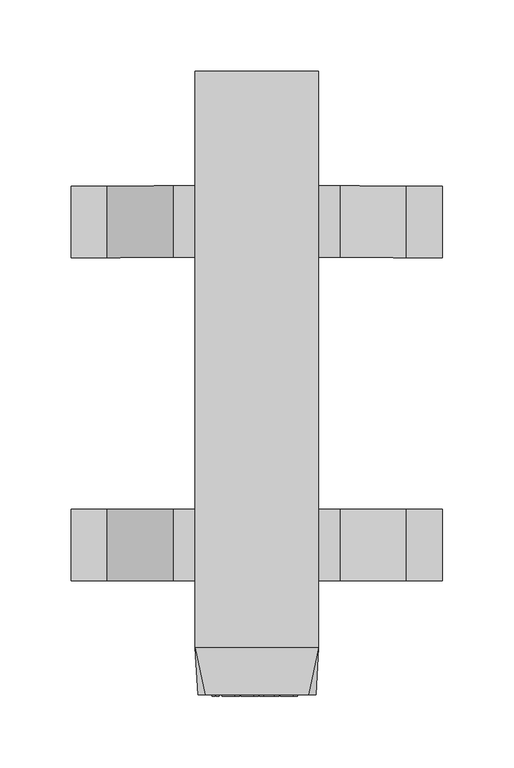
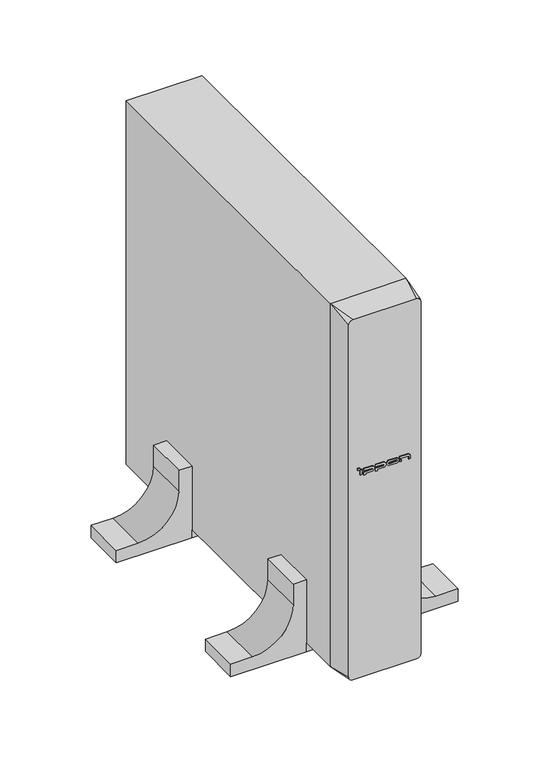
"""IFC4 building model written with IfcOpenShell, lengths in millimetres: proxy geometry, IPPON_ИБП_Smart Winner II Euro_1500ВА : Smart Winner II Euro 1500 ВА."""

from ifc_helpers import new_model, si_unit, point, frame, frame_2d, origin, origin_with_axes, place, context, project, spatial, polyline, circle_curve, trimmed, segment, composite_curve, outline, extrude, source, transform, mapped, element, save
from ifc_brep_helpers import plane_surface, spline_surface, advanced_brep


def electrical_equipment_e0649b80(model_context):
    return source(origin(), model_context, "Body", "SolidModel", [
        extrude(outline(polyline([(-29.1718133, -1.0), (-31.1718133, -1.0), (-31.1718133, 0.0), (-29.1718133, 0.0), (-29.1718133, -1.0)])), frame((0.0, 0.0, 262.7195835), z_axis=(0.0, 0.0, 1.0), x_axis=(1.0, 0.0, 0.0)), (0.0, 0.0, 1.0), 2.3),
        extrude(outline(polyline([(18.6035474, -1.0), (16.6035474, -1.0), (16.6035474, 0.0), (18.6035474, 0.0), (18.6035474, -1.0)])), frame((0.0, 0.0, 256.7195835), z_axis=(0.0, 0.0, 1.0), x_axis=(1.0, 0.0, 0.0)), (0.0, 0.0, 1.0), 2.2268231),
        extrude(outline(polyline([(-26.438565, -1.0), (-28.4833324, -1.0), (-28.4833324, 0.0), (-26.438565, 0.0), (-26.438565, -1.0)])), frame((0.0, 0.0, 256.7195835), z_axis=(0.0, 0.0, 1.0), x_axis=(1.0, 0.0, 0.0)), (0.0, 0.0, 1.0), 6.0),
        extrude(outline(composite_curve([segment(polyline([(260.4571435, -24.2241109), (260.4571435, -14.9923536)]), True, "CONTINUOUS"), segment(trimmed(circle_curve(frame_2d((259.6006642, -14.9923536)), 0.8564793), [point((260.4571435, -14.9923536))], [point((258.7441849, -14.9923536))], True, "CARTESIAN"), True, "CONTINUOUS"), segment(polyline([(258.7441849, -14.9923536), (258.7441849, -24.2241109), (255.2536803, -24.2241109), (255.2536803, -22.2241109), (256.7195835, -22.2241109), (256.7195835, -15.1486036)]), True, "CONTINUOUS"), segment(trimmed(circle_curve(frame_2d((259.7195835, -15.1486036)), 3.0), [point((256.7195835, -15.1486036))], [point((262.7195835, -15.1486036))], False, "CARTESIAN"), True, "CONTINUOUS"), segment(polyline([(262.7195835, -15.1486036), (262.7195835, -24.2241109), (260.4571435, -24.2241109)]), True, "CONTINUOUS")], self_intersect=False)), frame((0.0, -1.0, 0.0), z_axis=(0.0, 1.0, 0.0), x_axis=(0.0, 0.0, 1.0)), (0.0, 0.0, 1.0), 1.0),
        extrude(outline(composite_curve([segment(polyline([(260.4571435, -11.0171091), (260.4571435, -1.7853518)]), True, "CONTINUOUS"), segment(trimmed(circle_curve(frame_2d((259.6006642, -1.7853518)), 0.8564793), [point((260.4571435, -1.7853518))], [point((258.7441849, -1.7853518))], True, "CARTESIAN"), True, "CONTINUOUS"), segment(polyline([(258.7441849, -1.7853518), (258.7441849, -11.0171091), (255.2536803, -11.0171091), (255.2536803, -9.0171091), (256.7195835, -9.0171091), (256.7195835, -1.9416018)]), True, "CONTINUOUS"), segment(trimmed(circle_curve(frame_2d((259.7195835, -1.9416018)), 3.0), [point((256.7195835, -1.9416018))], [point((262.7195835, -1.9416018))], False, "CARTESIAN"), True, "CONTINUOUS"), segment(polyline([(262.7195835, -1.9416018), (262.7195835, -11.0171091), (260.4571435, -11.0171091)]), True, "CONTINUOUS")], self_intersect=False)), frame((0.0, -1.0, 0.0), z_axis=(0.0, 1.0, 0.0), x_axis=(0.0, 0.0, 1.0)), (0.0, 0.0, 1.0), 1.0),
        extrude(outline(composite_curve([segment(trimmed(circle_curve(frame_2d((259.7195835, 12.558657)), 3.0), [point((256.7195835, 12.558657))], [point((262.7195835, 12.558657))], False, "CARTESIAN"), True, "CONTINUOUS"), segment(polyline([(262.7195835, 12.558657), (262.7195835, 4.958657)]), True, "CONTINUOUS"), segment(trimmed(circle_curve(frame_2d((259.7195835, 4.958657)), 3.0), [point((262.7195835, 4.958657))], [point((256.7195835, 4.958657))], False, "CARTESIAN"), True, "CONTINUOUS"), segment(polyline([(256.7195835, 4.958657), (256.7195835, 12.558657)]), True, "CONTINUOUS")], self_intersect=False), holes=[composite_curve([segment(polyline([(258.7441849, 12.714907), (258.7441849, 4.802407)]), True, "CONTINUOUS"), segment(trimmed(circle_curve(frame_2d((259.6006642, 4.802407)), 0.8564793), [point((258.7441849, 4.802407))], [point((260.4571435, 4.802407))], True, "CARTESIAN"), True, "CONTINUOUS"), segment(polyline([(260.4571435, 4.802407), (260.4571435, 12.714907)]), True, "CONTINUOUS"), segment(trimmed(circle_curve(frame_2d((259.6006642, 12.714907)), 0.8564793), [point((260.4571435, 12.714907))], [point((258.7441849, 12.714907))], True, "CARTESIAN"), True, "CONTINUOUS")], self_intersect=False)]), frame((0.0, -1.0, 0.0), z_axis=(0.0, 1.0, 0.0), x_axis=(0.0, 0.0, 1.0)), (0.0, 0.0, 1.0), 1.0),
        extrude(outline(composite_curve([segment(polyline([(260.4571435, 16.6035474), (260.4571435, 25.8353046)]), True, "CONTINUOUS"), segment(trimmed(circle_curve(frame_2d((259.6006642, 25.8353046)), 0.8564793), [point((260.4571435, 25.8353046))], [point((259.6006642, 26.6917839))], True, "CARTESIAN"), True, "CONTINUOUS"), segment(polyline([(259.6006642, 26.6917839), (256.7195835, 26.6917839), (256.7195835, 28.6317921), (260.25, 28.6317921)]), True, "CONTINUOUS"), segment(trimmed(circle_curve(frame_2d((259.7195835, 25.6790546)), 3.0), [point((260.25, 28.6317921))], [point((262.7195835, 25.6790546))], False, "CARTESIAN"), True, "CONTINUOUS"), segment(polyline([(262.7195835, 25.6790546), (262.7195835, 16.6035474), (260.4571435, 16.6035474)]), True, "CONTINUOUS")], self_intersect=False)), frame((0.0, -1.0, 0.0), z_axis=(0.0, 1.0, 0.0), x_axis=(0.0, 0.0, 1.0)), (0.0, 0.0, 1.0), 1.0),
        extrude(outline(polyline([(-43.25, 356.0), (43.25, 356.0), (43.25, 306.0), (-43.25, 306.0), (-43.25, 356.0)])), origin_with_axes(), (0.0, 0.0, 1.0), 10.0),
        extrude(outline(polyline([(43.25, 80.0), (-43.25, 80.0), (-43.25, 130.0), (43.25, 130.0), (43.25, 80.0)])), origin_with_axes(), (0.0, 0.0, 1.0), 10.0),
        extrude(outline(composite_curve([segment(polyline([(0.0, -43.25), (86.5, -43.25), (86.5, -58.25), (61.5, -58.25)]), True, "CONTINUOUS"), segment(trimmed(circle_curve(frame_2d((61.5, -104.75)), 46.5), [point((61.5, -58.25))], [point((15.0, -104.75))], True, "CARTESIAN"), True, "CONTINUOUS"), segment(polyline([(15.0, -104.75), (15.0, -129.75), (0.0, -129.75), (0.0, -43.25)]), True, "CONTINUOUS")], self_intersect=False)), frame((0.0, 306.0, 0.0), z_axis=(0.0, 1.0, 0.0), x_axis=(0.0, 0.0, 1.0)), (0.0, 0.0, 1.0), 50.0),
        extrude(outline(composite_curve([segment(polyline([(0.0, -43.25), (86.5, -43.25), (86.5, -58.25), (61.5, -58.25)]), True, "CONTINUOUS"), segment(trimmed(circle_curve(frame_2d((61.5, -104.75)), 46.5), [point((61.5, -58.25))], [point((15.0, -104.75))], True, "CARTESIAN"), True, "CONTINUOUS"), segment(polyline([(15.0, -104.75), (15.0, -129.75), (0.0, -129.75), (0.0, -43.25)]), True, "CONTINUOUS")], self_intersect=False)), frame((0.0, 80.0, 0.0), z_axis=(0.0, 1.0, 0.0), x_axis=(0.0, 0.0, 1.0)), (0.0, 0.0, 1.0), 50.0),
        extrude(outline(composite_curve([segment(polyline([(0.0, 129.75), (15.0, 129.75), (15.0, 104.75)]), True, "CONTINUOUS"), segment(trimmed(circle_curve(frame_2d((61.5, 104.75)), 46.5), [point((15.0, 104.75))], [point((61.5, 58.25))], True, "CARTESIAN"), True, "CONTINUOUS"), segment(polyline([(61.5, 58.25), (86.5, 58.25), (86.5, 43.25), (0.0, 43.25), (0.0, 129.75)]), True, "CONTINUOUS")], self_intersect=False)), frame((0.0, 306.0, 0.0), z_axis=(0.0, 1.0, 0.0), x_axis=(0.0, 0.0, 1.0)), (0.0, 0.0, 1.0), 50.0),
        extrude(outline(composite_curve([segment(polyline([(0.0, 43.25), (0.0, 129.75), (15.0, 129.75), (15.0, 104.75)]), True, "CONTINUOUS"), segment(trimmed(circle_curve(frame_2d((61.5, 104.75)), 46.5), [point((15.0, 104.75))], [point((61.5, 58.25))], True, "CARTESIAN"), True, "CONTINUOUS"), segment(polyline([(61.5, 58.25), (86.5, 58.25), (86.5, 43.25), (0.0, 43.25)]), True, "CONTINUOUS")], self_intersect=False)), frame((0.0, 80.0, 0.0), z_axis=(0.0, 1.0, 0.0), x_axis=(0.0, 0.0, 1.0)), (0.0, 0.0, 1.0), 50.0),
        advanced_brep(
        [(36.25, 0.0, 12.0), (41.25, 0.0, 17.0), (41.25, 0.0, 441.0), (36.25, 0.0, 446.0), (-36.25, 0.0, 446.0), (-41.25, 0.0, 441.0), (-41.25, 0.0, 17.0), (-36.25, 0.0, 12.0), (43.25, 33.0, 10.0), (-43.25, 33.0, 10.0), (-43.25, 33.0, 448.0), (43.25, 33.0, 448.0)],
        [
            (0, 1, circle_curve(frame((36.25, 0.0, 17.0), z_axis=(0.0, -1.0, 0.0), x_axis=(-1.0, 0.0, 0.0)), 5.0)),
            (1, 2),
            (2, 3, circle_curve(frame((36.25, 0.0, 441.0), z_axis=(0.0, -1.0, 0.0), x_axis=(-1.0, 0.0, 0.0)), 5.0)),
            (3, 4),
            (4, 5, circle_curve(frame((-36.25, 0.0, 441.0), z_axis=(0.0, -1.0, 0.0), x_axis=(-1.0, 0.0, 0.0)), 5.0)),
            (5, 6),
            (6, 7, circle_curve(frame((-36.25, 0.0, 17.0), z_axis=(0.0, -1.0, 0.0), x_axis=(-1.0, 0.0, 0.0)), 5.0)),
            (7, 0),
            (8, 9),
            (9, 10),
            (10, 11),
            (11, 8),
            (0, 8),
            (8, 1),
            (7, 9),
            (6, 9),
            (5, 10),
            (4, 10),
            (3, 11),
            (2, 11),
        ],
        [
            plane_surface(frame((0.0, 0.0, 229.0), z_axis=(0.0, -1.0, 0.0), x_axis=(1.0, 0.0, 0.0))),
            plane_surface(frame((0.0, 33.0, 229.0), z_axis=(0.0, 1.0, 0.0), x_axis=(1.0, 0.0, 0.0))),
            spline_surface(2, 1, [[(43.25, 33.0, 10.0), (36.25, 0.0, 12.0)], [(43.25, 33.0, 10.0), (41.25, 0.0, 12.0)], [(43.25, 33.0, 10.0), (41.25, 0.0, 17.0)]], [3, 3], [2, 2], [0.0, 1.0], [0.0, 1.0], weights=[[1.0, 1.0], [0.7071067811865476, 0.7071067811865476], [1.0, 1.0]]),
            plane_surface(frame((0.0, 33.0, 10.0), z_axis=(0.0, -0.060495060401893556, -0.9981684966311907), x_axis=(1.0, 0.0, 0.0))),
            spline_surface(2, 1, [[(-43.25, 33.0, 10.0), (-41.25, 0.0, 17.0)], [(-43.25, 33.0, 10.0), (-41.25, 0.0, 12.0)], [(-43.25, 33.0, 10.0), (-36.25, 0.0, 12.0)]], [3, 3], [2, 2], [0.0, 1.0], [0.0, 1.0], weights=[[1.0, 1.0], [0.7071067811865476, 0.7071067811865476], [1.0, 1.0]]),
            plane_surface(frame((-43.25, 33.0, 229.0), z_axis=(-0.998168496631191, -0.06049506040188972, 0.0), x_axis=(0.0, 0.0, -1.0))),
            spline_surface(2, 1, [[(-43.25, 33.0, 448.0), (-36.25, 0.0, 446.0)], [(-43.25, 33.0, 448.0), (-41.25, 0.0, 446.0)], [(-43.25, 33.0, 448.0), (-41.25, 0.0, 441.0)]], [3, 3], [2, 2], [0.0, 1.0], [0.0, 1.0], weights=[[1.0, 1.0], [0.7071067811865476, 0.7071067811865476], [1.0, 1.0]]),
            plane_surface(frame((0.0, 33.0, 448.0), z_axis=(0.0, -0.06049506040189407, 0.9981684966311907), x_axis=(-1.0, 0.0, 0.0))),
            spline_surface(2, 1, [[(43.25, 33.0, 448.0), (41.25, 0.0, 441.0)], [(43.25, 33.0, 448.0), (41.25, 0.0, 446.0)], [(43.25, 33.0, 448.0), (36.25, 0.0, 446.0)]], [3, 3], [2, 2], [0.0, 1.0], [0.0, 1.0], weights=[[1.0, 1.0], [0.7071067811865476, 0.7071067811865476], [1.0, 1.0]]),
            plane_surface(frame((43.25, 33.0, 229.0), z_axis=(0.9981684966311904, -0.06049506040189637, 0.0), x_axis=(0.0, 0.0, 1.0))),
        ],
        [
            (0, [[1, 2, 3, 4, 5, 6, 7, 8]]),
            (1, [[9, 10, 11, 12]]),
            (2, [[-1, 13, 14]]),
            (3, [[-9, -13, -8, 15]]),
            (4, [[-7, 16, -15]]),
            (5, [[-10, -16, -6, 17]]),
            (6, [[-5, 18, -17]]),
            (7, [[-11, -18, -4, 19]]),
            (8, [[-3, 20, -19]]),
            (9, [[-12, -20, -2, -14]]),
        ],
    ),
        extrude(outline(polyline([(43.25, 33.0), (-43.25, 33.0), (-43.25, 436.0), (43.25, 436.0), (43.25, 33.0)])), frame((0.0, 0.0, 10.0), z_axis=(0.0, 0.0, 1.0), x_axis=(1.0, 0.0, 0.0)), (0.0, 0.0, 1.0), 438.0),
    ])


if __name__ == "__main__":
    model = new_model("IFC4")
    model_context = context("Model", 3, world=origin())
    ifc_project = project(units=[si_unit("LENGTHUNIT", "METRE", prefix="MILLI")], contexts=[model_context])
    site = spatial("IfcSite", under=ifc_project)
    building = spatial("IfcBuilding", under=site)
    placement = place(None, origin())
    electrical_equipment_shape = electrical_equipment_e0649b80(model_context)
    element("IfcBuildingElementProxy", 1, Name="IPPON_ИБП_Smart Winner II Euro_1500ВА : Smart Winner II Euro 1500 ВА", ObjectType="IPPON_ИБП_Smart Winner II Euro_1500ВА : Smart Winner II Euro 1500 ВА", at=placement, inside=building, context=model_context, shape_type="MappedRepresentation", body=[
        mapped(electrical_equipment_shape, transform((0.0, 0.0, 0.0), x_axis=(1.0, 0.0, 0.0), y_axis=(0.0, 1.0, 0.0), z_axis=(0.0, 0.0, 1.0))),
    ])
    save(model, "model.ifc")
